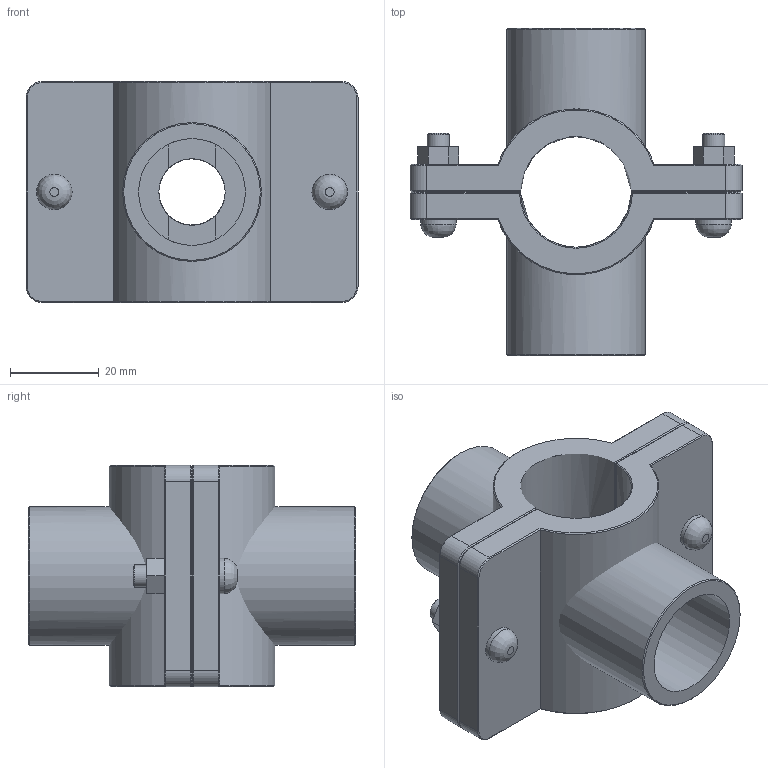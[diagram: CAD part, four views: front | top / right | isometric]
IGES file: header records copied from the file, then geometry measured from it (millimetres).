
Global section: file name: 161760025007_161860025007.ipt; native system: Autodesk Inventor 2015; preprocessor: unknown; author: KIM; date: 20170618.093639; units: millimetre
Bounding box: 75 x 74 x 50 mm (x, y, z)
Volume: 74535.1 mm3; surface area: 32983.9 mm2
Topology: 2 solids, 2 shells, 129 faces, 307 edges, 192 vertices
Faces by surface type: plane 70, cone 24, revolution 18, cylinder 17
Full cylindrical faces by diameter (mm): 5 x2, 8 x4, 31.352 x1
